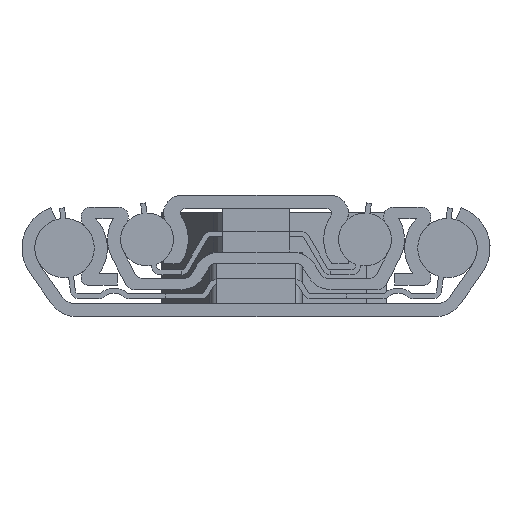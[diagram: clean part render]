
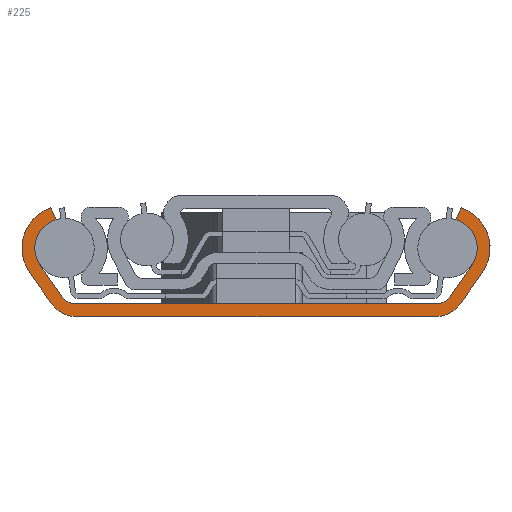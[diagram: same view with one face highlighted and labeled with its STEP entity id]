
A CAD part, left-side view. The second image highlights one B-rep face of the part: STEP entity #225.
In plain terms, the highlighted planar face has unit normal (-1, 0, 0).
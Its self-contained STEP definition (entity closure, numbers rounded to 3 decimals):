
#225 = ADVANCED_FACE( '', ( #563 ), #564, .F. );
#563 = FACE_OUTER_BOUND( '', #1221, .T. );
#564 = PLANE( '', #1222 );
#1221 = EDGE_LOOP( '', ( #2003, #2004, #2005, #2006, #2007, #2008, #2009, #2010, #2011, #2012, #2013, #2014, #2015, #2016, #2017, #2018 ) );
#1222 = AXIS2_PLACEMENT_3D( '', #2019, #2020, #2021 );
#2003 = ORIENTED_EDGE( '', *, *, #4559, .F. );
#2004 = ORIENTED_EDGE( '', *, *, #4568, .T. );
#2005 = ORIENTED_EDGE( '', *, *, #4565, .F. );
#2006 = ORIENTED_EDGE( '', *, *, #4562, .T. );
#2007 = ORIENTED_EDGE( '', *, *, #4510, .F. );
#2008 = ORIENTED_EDGE( '', *, *, #4530, .T. );
#2009 = ORIENTED_EDGE( '', *, *, #4533, .F. );
#2010 = ORIENTED_EDGE( '', *, *, #4536, .T. );
#2011 = ORIENTED_EDGE( '', *, *, #4539, .F. );
#2012 = ORIENTED_EDGE( '', *, *, #4542, .F. );
#2013 = ORIENTED_EDGE( '', *, *, #4545, .F. );
#2014 = ORIENTED_EDGE( '', *, *, #4548, .F. );
#2015 = ORIENTED_EDGE( '', *, *, #4523, .F. );
#2016 = ORIENTED_EDGE( '', *, *, #4550, .F. );
#2017 = ORIENTED_EDGE( '', *, *, #4553, .F. );
#2018 = ORIENTED_EDGE( '', *, *, #4556, .F. );
#2019 = CARTESIAN_POINT( '', ( 0., -29., 10.4 ) );
#2020 = DIRECTION( '', ( 1., 0., 0. ) );
#2021 = DIRECTION( '', ( 0., 0., -1. ) );
#4510 = EDGE_CURVE( '', #5410, #5411, #5412, .T. );
#4523 = EDGE_CURVE( '', #5434, #5435, #5436, .T. );
#4530 = EDGE_CURVE( '', #5410, #5447, #5448, .T. );
#4533 = EDGE_CURVE( '', #5452, #5447, #5453, .T. );
#4536 = EDGE_CURVE( '', #5452, #5457, #5458, .T. );
#4539 = EDGE_CURVE( '', #5462, #5457, #5463, .T. );
#4542 = EDGE_CURVE( '', #5467, #5462, #5468, .T. );
#4545 = EDGE_CURVE( '', #5472, #5467, #5473, .T. );
#4548 = EDGE_CURVE( '', #5435, #5472, #5477, .T. );
#4550 = EDGE_CURVE( '', #5479, #5434, #5480, .T. );
#4553 = EDGE_CURVE( '', #5484, #5479, #5485, .T. );
#4556 = EDGE_CURVE( '', #5489, #5484, #5490, .T. );
#4559 = EDGE_CURVE( '', #5494, #5489, #5495, .T. );
#4562 = EDGE_CURVE( '', #5499, #5411, #5500, .T. );
#4565 = EDGE_CURVE( '', #5499, #5504, #5505, .T. );
#4568 = EDGE_CURVE( '', #5494, #5504, #5509, .T. );
#5410 = VERTEX_POINT( '', #6882 );
#5411 = VERTEX_POINT( '', #6883 );
#5412 = LINE( '', #6884, #6885 );
#5434 = VERTEX_POINT( '', #6915 );
#5435 = VERTEX_POINT( '', #6916 );
#5436 = LINE( '', #6917, #6918 );
#5447 = VERTEX_POINT( '', #6935 );
#5448 = CIRCLE( '', #6936, 2.25 );
#5452 = VERTEX_POINT( '', #6941 );
#5453 = LINE( '', #6942, #6943 );
#5457 = VERTEX_POINT( '', #6949 );
#5458 = CIRCLE( '', #6950, 4.5 );
#5462 = VERTEX_POINT( '', #6955 );
#5463 = LINE( '', #6956, #6957 );
#5467 = VERTEX_POINT( '', #6963 );
#5468 = CIRCLE( '', #6964, 6.45 );
#5472 = VERTEX_POINT( '', #6969 );
#5473 = LINE( '', #6970, #6971 );
#5477 = CIRCLE( '', #6977, 4.75 );
#5479 = VERTEX_POINT( '', #6979 );
#5480 = CIRCLE( '', #6980, 4.75 );
#5484 = VERTEX_POINT( '', #6985 );
#5485 = LINE( '', #6986, #6987 );
#5489 = VERTEX_POINT( '', #6993 );
#5490 = CIRCLE( '', #6994, 6.45 );
#5494 = VERTEX_POINT( '', #6999 );
#5495 = LINE( '', #7000, #7001 );
#5499 = VERTEX_POINT( '', #7007 );
#5500 = CIRCLE( '', #7008, 2.25 );
#5504 = VERTEX_POINT( '', #7013 );
#5505 = LINE( '', #7014, #7015 );
#5509 = CIRCLE( '', #7021, 4.5 );
#6882 = CARTESIAN_POINT( '', ( 0., 27.44, 2. ) );
#6883 = CARTESIAN_POINT( '', ( 0., -27.44, 2. ) );
#6884 = CARTESIAN_POINT( '', ( 0., 27.44, 2. ) );
#6885 = VECTOR( '', #8906, 1000. );
#6915 = CARTESIAN_POINT( '', ( 0., -27.119, 0. ) );
#6916 = CARTESIAN_POINT( '', ( 0., 27.119, 0. ) );
#6917 = CARTESIAN_POINT( '', ( 0., -27.119, 0. ) );
#6918 = VECTOR( '', #8927, 1000. );
#6935 = CARTESIAN_POINT( '', ( 0., 29.284, 2.959 ) );
#6936 = AXIS2_PLACEMENT_3D( '', #8934, #8935, #8936 );
#6941 = CARTESIAN_POINT( '', ( 0., 32.686, 7.819 ) );
#6942 = CARTESIAN_POINT( '', ( 0., 32.686, 7.819 ) );
#6943 = VECTOR( '', #8941, 1000. );
#6949 = CARTESIAN_POINT( '', ( 0., 30.265, 14.719 ) );
#6950 = AXIS2_PLACEMENT_3D( '', #8944, #8945, #8946 );
#6955 = CARTESIAN_POINT( '', ( 0., 31.096, 16.5 ) );
#6956 = CARTESIAN_POINT( '', ( 0., 31.096, 16.5 ) );
#6957 = VECTOR( '', #8951, 1000. );
#6963 = CARTESIAN_POINT( '', ( 0., 34.284, 6.7 ) );
#6964 = AXIS2_PLACEMENT_3D( '', #8954, #8955, #8956 );
#6969 = CARTESIAN_POINT( '', ( 0., 31.01, 2.026 ) );
#6970 = CARTESIAN_POINT( '', ( 0., 31.01, 2.026 ) );
#6971 = VECTOR( '', #8961, 1000. );
#6977 = AXIS2_PLACEMENT_3D( '', #8964, #8965, #8966 );
#6979 = CARTESIAN_POINT( '', ( 0., -31.01, 2.026 ) );
#6980 = AXIS2_PLACEMENT_3D( '', #8970, #8971, #8972 );
#6985 = CARTESIAN_POINT( '', ( 0., -34.284, 6.7 ) );
#6986 = CARTESIAN_POINT( '', ( 0., -34.284, 6.7 ) );
#6987 = VECTOR( '', #8977, 1000. );
#6993 = CARTESIAN_POINT( '', ( 0., -31.096, 16.5 ) );
#6994 = AXIS2_PLACEMENT_3D( '', #8980, #8981, #8982 );
#6999 = CARTESIAN_POINT( '', ( 0., -30.265, 14.719 ) );
#7000 = CARTESIAN_POINT( '', ( 0., -30.265, 14.719 ) );
#7001 = VECTOR( '', #8987, 1000. );
#7007 = CARTESIAN_POINT( '', ( 0., -29.284, 2.959 ) );
#7008 = AXIS2_PLACEMENT_3D( '', #8990, #8991, #8992 );
#7013 = CARTESIAN_POINT( '', ( 0., -32.686, 7.819 ) );
#7014 = CARTESIAN_POINT( '', ( 0., -29.284, 2.959 ) );
#7015 = VECTOR( '', #8997, 1000. );
#7021 = AXIS2_PLACEMENT_3D( '', #9000, #9001, #9002 );
#8906 = DIRECTION( '', ( 0., -1., 0. ) );
#8927 = DIRECTION( '', ( 0., 1., 0. ) );
#8934 = CARTESIAN_POINT( '', ( 0., 27.44, 4.25 ) );
#8935 = DIRECTION( '', ( 1., 0., 0. ) );
#8936 = DIRECTION( '', ( 0., 0., -1. ) );
#8941 = DIRECTION( '', ( 0., -0.574, -0.819 ) );
#8944 = CARTESIAN_POINT( '', ( 0., 29., 10.4 ) );
#8945 = DIRECTION( '', ( 1., 0., 0. ) );
#8946 = DIRECTION( '', ( 0., 0., -1. ) );
#8951 = DIRECTION( '', ( 0., -0.423, -0.906 ) );
#8954 = CARTESIAN_POINT( '', ( 0., 29., 10.4 ) );
#8955 = DIRECTION( '', ( 1., 0., 0. ) );
#8956 = DIRECTION( '', ( 0., 0., -1. ) );
#8961 = DIRECTION( '', ( 0., 0.574, 0.819 ) );
#8964 = CARTESIAN_POINT( '', ( 0., 27.119, 4.75 ) );
#8965 = DIRECTION( '', ( 1., 0., 0. ) );
#8966 = DIRECTION( '', ( 0., 0., -1. ) );
#8970 = CARTESIAN_POINT( '', ( 0., -27.119, 4.75 ) );
#8971 = DIRECTION( '', ( 1., 0., 0. ) );
#8972 = DIRECTION( '', ( 0., 0., -1. ) );
#8977 = DIRECTION( '', ( 0., 0.574, -0.819 ) );
#8980 = CARTESIAN_POINT( '', ( 0., -29., 10.4 ) );
#8981 = DIRECTION( '', ( 1., 0., 0. ) );
#8982 = DIRECTION( '', ( 0., 0., -1. ) );
#8987 = DIRECTION( '', ( 0., -0.423, 0.906 ) );
#8990 = CARTESIAN_POINT( '', ( 0., -27.44, 4.25 ) );
#8991 = DIRECTION( '', ( 1., 0., 0. ) );
#8992 = DIRECTION( '', ( 0., 0., -1. ) );
#8997 = DIRECTION( '', ( 0., -0.574, 0.819 ) );
#9000 = CARTESIAN_POINT( '', ( 0., -29., 10.4 ) );
#9001 = DIRECTION( '', ( 1., 0., 0. ) );
#9002 = DIRECTION( '', ( 0., 0., -1. ) );
